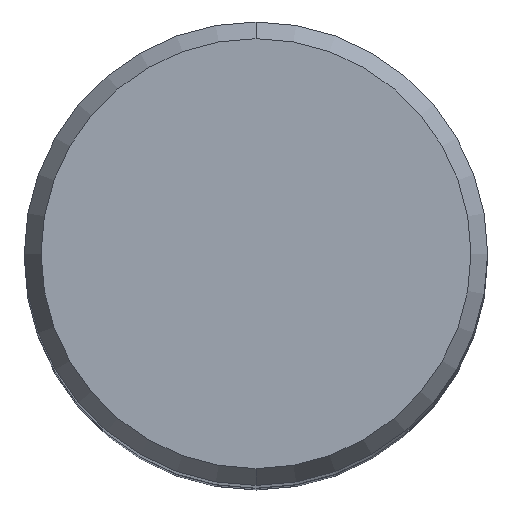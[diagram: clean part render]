
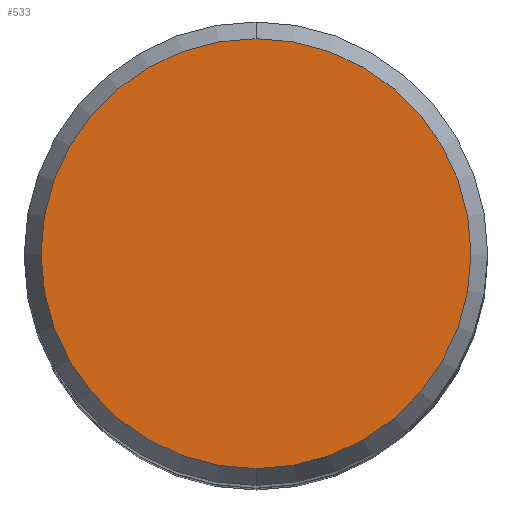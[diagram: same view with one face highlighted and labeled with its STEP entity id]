
A CAD part, top view. The second image highlights one B-rep face of the part: STEP entity #533.
In plain terms, the highlighted planar face has unit normal (0, 0, 1).
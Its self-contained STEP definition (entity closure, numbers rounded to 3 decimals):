
#247=VERTEX_POINT('',#656);
#355=VERTEX_POINT('',#773);
#359=EDGE_CURVE('',#247,#355,#777,.T.);
#533=ADVANCED_FACE('',(#971),#972,.T.);
#601=EDGE_CURVE('',#355,#247,#1050,.T.);
#656=CARTESIAN_POINT('',(0.,-7.423,0.0));
#773=CARTESIAN_POINT('',(0.0,7.423,0.0));
#777=CIRCLE('',#1396,7.423);
#971=FACE_OUTER_BOUND('',#1731,.T.);
#972=PLANE('',#1732);
#1050=CIRCLE('',#1875,7.423);
#1396=AXIS2_PLACEMENT_3D('',#2083,#2084,#2085);
#1731=EDGE_LOOP('',(#2302,#2303));
#1732=AXIS2_PLACEMENT_3D('',#2304,#2305,#2306);
#1875=AXIS2_PLACEMENT_3D('',#2405,#2406,#2407);
#2083=CARTESIAN_POINT('',(0.0,0.0,0.0));
#2084=DIRECTION('',(0.0,0.0,-1.0));
#2085=DIRECTION('',(0.0,1.0,0.0));
#2302=ORIENTED_EDGE('',*,*,#601,.F.);
#2303=ORIENTED_EDGE('',*,*,#359,.F.);
#2304=CARTESIAN_POINT('',(0.0,3.711,0.0));
#2305=DIRECTION('',(-0.0,0.0,1.0));
#2306=DIRECTION('',(0.0,-1.0,0.0));
#2405=CARTESIAN_POINT('',(0.0,0.0,0.0));
#2406=DIRECTION('',(0.0,0.0,-1.0));
#2407=DIRECTION('',(0.0,1.0,0.0));
